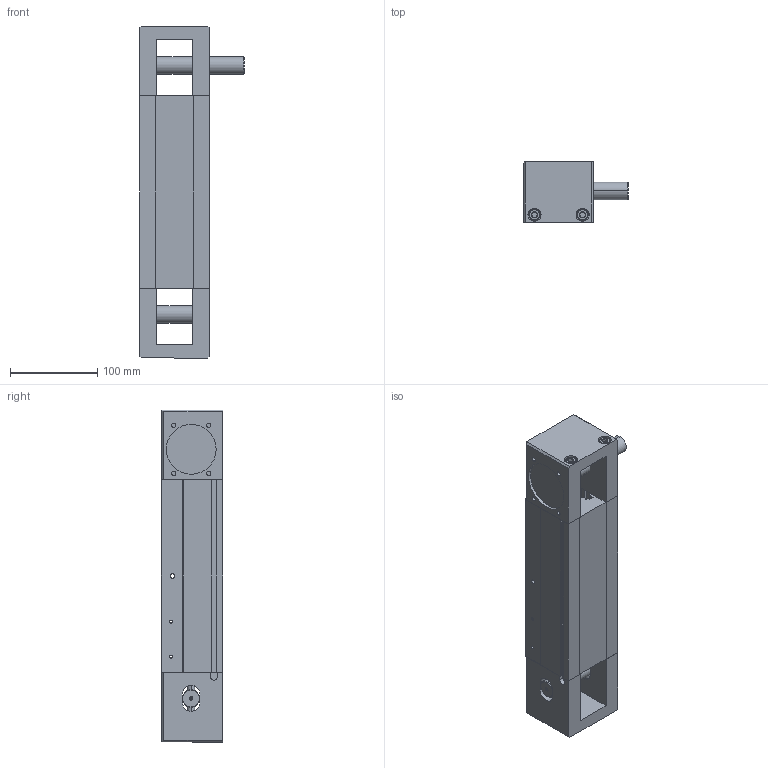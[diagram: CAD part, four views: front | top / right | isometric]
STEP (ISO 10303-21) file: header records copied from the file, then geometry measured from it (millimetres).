
FILE_DESCRIPTION (( 'STEP AP203' ), '1' );
FILE_NAME ('ZFT1-E80-1-220-220-0.STEP', '2015-12-21T08:21:26', ( '' ), ( '' ), 'SwSTEP 2.0', 'SolidWorks 2014', '' );
FILE_SCHEMA (( 'CONFIG_CONTROL_DESIGN' ));
Length unit declared in the file: millimetre
Products named in the file (5): ZFT1-E80 Grundkoerper; ZFT1-E80 Tischteil L=220; ZFT1-E80 Antriebskopf; ZFT1-E80 Umlenkkopf; ZFT1-E80-1-220-220-0
Assembly tree (4 placements, depth 2):
  ZFT1-E80-1-220-220-0
    ZFT1-E80 Grundkoerper
    ZFT1-E80 Tischteil L=220
    ZFT1-E80 Antriebskopf
    ZFT1-E80 Umlenkkopf
Bounding box: 120 x 70 x 380 mm (x, y, z)
Volume: 511213 mm3; surface area: 291712.9 mm2
Topology: 1 solids, 55 shells, 857 faces, 2543 edges, 1720 vertices
Faces by surface type: plane 448, cylinder 292, cone 98, torus 16, bspline 3
Entity records: 30037 total; most frequent: CARTESIAN_POINT 6373, DIRECTION 4919, ORIENTED_EDGE 4512, EDGE_CURVE 2543, VERTEX_POINT 1720, AXIS2_PLACEMENT_3D 1694, VECTOR 1531, LINE 1531
